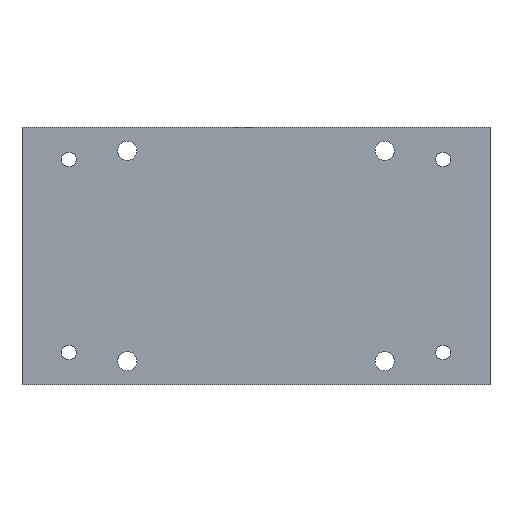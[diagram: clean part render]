
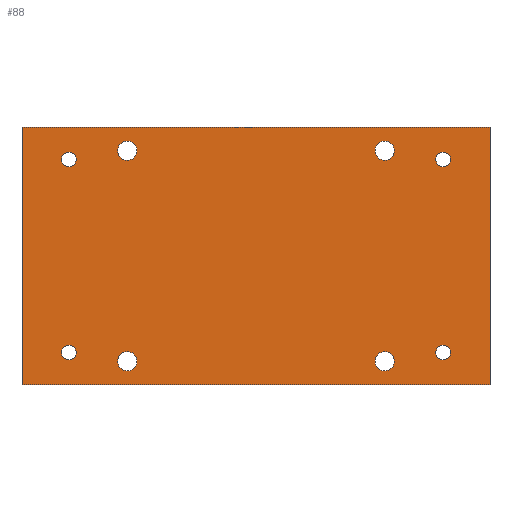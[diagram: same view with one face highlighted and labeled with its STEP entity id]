
A CAD part, top view. The second image highlights one B-rep face of the part: STEP entity #88.
In plain terms, the highlighted planar face has unit normal (0, 0, 1).
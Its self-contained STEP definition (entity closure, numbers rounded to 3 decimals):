
#24 = VERTEX_POINT('',#25);
#25 = CARTESIAN_POINT('',(0.,-44.,8.));
#40 = VERTEX_POINT('',#41);
#41 = CARTESIAN_POINT('',(0.,44.,8.));
#47 = EDGE_CURVE('',#24,#40,#48,.T.);
#48 = LINE('',#49,#50);
#49 = CARTESIAN_POINT('',(0.,-44.,8.));
#50 = VECTOR('',#51,1.);
#51 = DIRECTION('',(-0.,1.,0.));
#70 = EDGE_CURVE('',#24,#71,#73,.T.);
#71 = VERTEX_POINT('',#72);
#72 = CARTESIAN_POINT('',(160.,-44.,8.));
#73 = LINE('',#74,#75);
#74 = CARTESIAN_POINT('',(0.,-44.,8.));
#75 = VECTOR('',#76,1.);
#76 = DIRECTION('',(1.,0.,-0.));
#88 = ADVANCED_FACE('',(#89,#107,#118,#129,#140,#151,#162,#173,#184),
  #195,.T.);
#89 = FACE_BOUND('',#90,.T.);
#90 = EDGE_LOOP('',(#91,#92,#93,#101));
#91 = ORIENTED_EDGE('',*,*,#47,.F.);
#92 = ORIENTED_EDGE('',*,*,#70,.T.);
#93 = ORIENTED_EDGE('',*,*,#94,.T.);
#94 = EDGE_CURVE('',#71,#95,#97,.T.);
#95 = VERTEX_POINT('',#96);
#96 = CARTESIAN_POINT('',(160.,44.,8.));
#97 = LINE('',#98,#99);
#98 = CARTESIAN_POINT('',(160.,-44.,8.));
#99 = VECTOR('',#100,1.);
#100 = DIRECTION('',(-0.,1.,0.));
#101 = ORIENTED_EDGE('',*,*,#102,.F.);
#102 = EDGE_CURVE('',#40,#95,#103,.T.);
#103 = LINE('',#104,#105);
#104 = CARTESIAN_POINT('',(0.,44.,8.));
#105 = VECTOR('',#106,1.);
#106 = DIRECTION('',(1.,0.,-0.));
#107 = FACE_BOUND('',#108,.T.);
#108 = EDGE_LOOP('',(#109));
#109 = ORIENTED_EDGE('',*,*,#110,.F.);
#110 = EDGE_CURVE('',#111,#111,#113,.T.);
#111 = VERTEX_POINT('',#112);
#112 = CARTESIAN_POINT('',(18.5,-33.,8.));
#113 = CIRCLE('',#114,2.5);
#114 = AXIS2_PLACEMENT_3D('',#115,#116,#117);
#115 = CARTESIAN_POINT('',(16.,-33.,8.));
#116 = DIRECTION('',(0.,0.,1.));
#117 = DIRECTION('',(1.,0.,-0.));
#118 = FACE_BOUND('',#119,.T.);
#119 = EDGE_LOOP('',(#120));
#120 = ORIENTED_EDGE('',*,*,#121,.F.);
#121 = EDGE_CURVE('',#122,#122,#124,.T.);
#122 = VERTEX_POINT('',#123);
#123 = CARTESIAN_POINT('',(39.3,-36.,8.));
#124 = CIRCLE('',#125,3.3);
#125 = AXIS2_PLACEMENT_3D('',#126,#127,#128);
#126 = CARTESIAN_POINT('',(36.,-36.,8.));
#127 = DIRECTION('',(0.,0.,1.));
#128 = DIRECTION('',(1.,0.,-0.));
#129 = FACE_BOUND('',#130,.T.);
#130 = EDGE_LOOP('',(#131));
#131 = ORIENTED_EDGE('',*,*,#132,.F.);
#132 = EDGE_CURVE('',#133,#133,#135,.T.);
#133 = VERTEX_POINT('',#134);
#134 = CARTESIAN_POINT('',(127.3,-36.,8.));
#135 = CIRCLE('',#136,3.3);
#136 = AXIS2_PLACEMENT_3D('',#137,#138,#139);
#137 = CARTESIAN_POINT('',(124.,-36.,8.));
#138 = DIRECTION('',(0.,0.,1.));
#139 = DIRECTION('',(1.,0.,-0.));
#140 = FACE_BOUND('',#141,.T.);
#141 = EDGE_LOOP('',(#142));
#142 = ORIENTED_EDGE('',*,*,#143,.F.);
#143 = EDGE_CURVE('',#144,#144,#146,.T.);
#144 = VERTEX_POINT('',#145);
#145 = CARTESIAN_POINT('',(146.5,-33.,8.));
#146 = CIRCLE('',#147,2.5);
#147 = AXIS2_PLACEMENT_3D('',#148,#149,#150);
#148 = CARTESIAN_POINT('',(144.,-33.,8.));
#149 = DIRECTION('',(0.,0.,1.));
#150 = DIRECTION('',(1.,0.,-0.));
#151 = FACE_BOUND('',#152,.T.);
#152 = EDGE_LOOP('',(#153));
#153 = ORIENTED_EDGE('',*,*,#154,.F.);
#154 = EDGE_CURVE('',#155,#155,#157,.T.);
#155 = VERTEX_POINT('',#156);
#156 = CARTESIAN_POINT('',(18.5,33.,8.));
#157 = CIRCLE('',#158,2.5);
#158 = AXIS2_PLACEMENT_3D('',#159,#160,#161);
#159 = CARTESIAN_POINT('',(16.,33.,8.));
#160 = DIRECTION('',(0.,0.,1.));
#161 = DIRECTION('',(1.,0.,-0.));
#162 = FACE_BOUND('',#163,.T.);
#163 = EDGE_LOOP('',(#164));
#164 = ORIENTED_EDGE('',*,*,#165,.F.);
#165 = EDGE_CURVE('',#166,#166,#168,.T.);
#166 = VERTEX_POINT('',#167);
#167 = CARTESIAN_POINT('',(39.3,36.,8.));
#168 = CIRCLE('',#169,3.3);
#169 = AXIS2_PLACEMENT_3D('',#170,#171,#172);
#170 = CARTESIAN_POINT('',(36.,36.,8.));
#171 = DIRECTION('',(0.,0.,1.));
#172 = DIRECTION('',(1.,0.,-0.));
#173 = FACE_BOUND('',#174,.T.);
#174 = EDGE_LOOP('',(#175));
#175 = ORIENTED_EDGE('',*,*,#176,.F.);
#176 = EDGE_CURVE('',#177,#177,#179,.T.);
#177 = VERTEX_POINT('',#178);
#178 = CARTESIAN_POINT('',(127.3,36.,8.));
#179 = CIRCLE('',#180,3.3);
#180 = AXIS2_PLACEMENT_3D('',#181,#182,#183);
#181 = CARTESIAN_POINT('',(124.,36.,8.));
#182 = DIRECTION('',(0.,0.,1.));
#183 = DIRECTION('',(1.,0.,-0.));
#184 = FACE_BOUND('',#185,.T.);
#185 = EDGE_LOOP('',(#186));
#186 = ORIENTED_EDGE('',*,*,#187,.F.);
#187 = EDGE_CURVE('',#188,#188,#190,.T.);
#188 = VERTEX_POINT('',#189);
#189 = CARTESIAN_POINT('',(146.5,33.,8.));
#190 = CIRCLE('',#191,2.5);
#191 = AXIS2_PLACEMENT_3D('',#192,#193,#194);
#192 = CARTESIAN_POINT('',(144.,33.,8.));
#193 = DIRECTION('',(0.,0.,1.));
#194 = DIRECTION('',(1.,0.,-0.));
#195 = PLANE('',#196);
#196 = AXIS2_PLACEMENT_3D('',#197,#198,#199);
#197 = CARTESIAN_POINT('',(0.,-44.,8.));
#198 = DIRECTION('',(0.,0.,1.));
#199 = DIRECTION('',(1.,0.,-0.));
